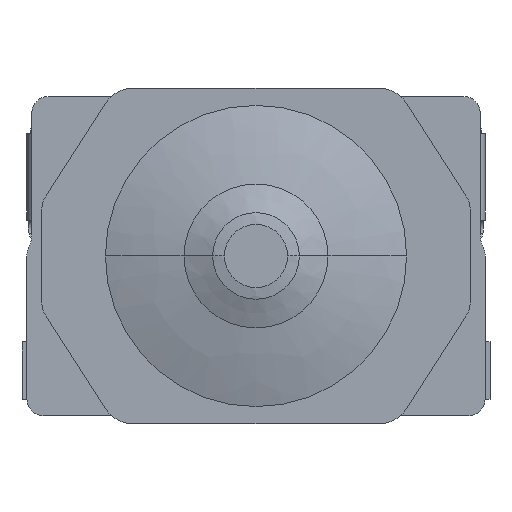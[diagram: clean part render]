
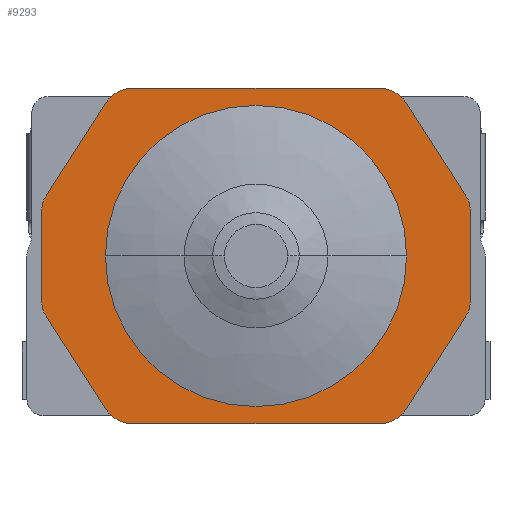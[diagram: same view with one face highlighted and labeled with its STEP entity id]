
A CAD part, top view. The second image highlights one B-rep face of the part: STEP entity #9293.
In plain terms, the highlighted planar face has unit normal (0, 0, 1).
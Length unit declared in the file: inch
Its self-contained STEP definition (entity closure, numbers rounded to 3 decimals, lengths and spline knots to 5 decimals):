
#3244=CARTESIAN_POINT('',(243.18695,-110.72201,199.91762));
#3245=DIRECTION('',(0.,0.,1.));
#3246=DIRECTION('',(0.,1.,0.));
#3247=AXIS2_PLACEMENT_3D('',#3244,#3245,#3246);
#3249=DIRECTION('',(-1.,0.,0.));
#3250=VECTOR('',#3249,1.50407);
#3251=CARTESIAN_POINT('',(244.69102,-110.52201,199.91762));
#3252=LINE('',#3251,#3250);
#3253=CARTESIAN_POINT('',(244.69102,-110.72201,199.91762));
#3254=DIRECTION('',(0.,0.,1.));
#3255=DIRECTION('',(0.841,0.541,0.));
#3256=AXIS2_PLACEMENT_3D('',#3253,#3254,#3255);
#3258=DIRECTION('',(-0.541,0.841,0.));
#3259=VECTOR('',#3258,0.66197);
#3260=CARTESIAN_POINT('',(245.21722,-111.17069,199.91762));
#3261=LINE('',#3260,#3259);
#3262=CARTESIAN_POINT('',(245.04898,-111.27885,199.91762));
#3263=DIRECTION('',(0.,0.,1.));
#3264=DIRECTION('',(0.959,0.282,0.));
#3265=AXIS2_PLACEMENT_3D('',#3262,#3263,#3264);
#3267=CARTESIAN_POINT('',(245.04898,-111.27885,199.91762));
#3268=DIRECTION('',(0.,0.,1.));
#3269=DIRECTION('',(1.,0.,0.));
#3270=AXIS2_PLACEMENT_3D('',#3267,#3268,#3269);
#3272=DIRECTION('',(0.,1.,0.));
#3273=VECTOR('',#3272,0.53633);
#3274=CARTESIAN_POINT('',(245.24898,-111.81518,199.91762));
#3275=LINE('',#3274,#3273);
#3276=CARTESIAN_POINT('',(245.04898,-111.81518,199.91762));
#3277=DIRECTION('',(0.,0.,1.));
#3278=DIRECTION('',(0.959,-0.282,0.));
#3279=AXIS2_PLACEMENT_3D('',#3276,#3277,#3278);
#3281=CARTESIAN_POINT('',(245.04898,-111.81518,199.91762));
#3282=DIRECTION('',(0.,0.,1.));
#3283=DIRECTION('',(0.841,-0.541,0.));
#3284=AXIS2_PLACEMENT_3D('',#3281,#3282,#3283);
#3286=DIRECTION('',(0.541,0.841,0.));
#3287=VECTOR('',#3286,0.66197);
#3288=CARTESIAN_POINT('',(244.85926,-112.48016,199.91762));
#3289=LINE('',#3288,#3287);
#3290=CARTESIAN_POINT('',(244.69102,-112.37201,199.91762));
#3291=DIRECTION('',(0.,0.,1.));
#3292=DIRECTION('',(0.,-1.,0.));
#3293=AXIS2_PLACEMENT_3D('',#3290,#3291,#3292);
#3295=DIRECTION('',(1.,0.,0.));
#3296=VECTOR('',#3295,1.50407);
#3297=CARTESIAN_POINT('',(243.18695,-112.57201,199.91762));
#3298=LINE('',#3297,#3296);
#3299=CARTESIAN_POINT('',(243.18695,-112.37201,199.91762));
#3300=DIRECTION('',(0.,0.,1.));
#3301=DIRECTION('',(-0.841,-0.541,0.));
#3302=AXIS2_PLACEMENT_3D('',#3299,#3300,#3301);
#3304=DIRECTION('',(0.541,-0.841,0.));
#3305=VECTOR('',#3304,0.66197);
#3306=CARTESIAN_POINT('',(242.66075,-111.92333,199.91762));
#3307=LINE('',#3306,#3305);
#3308=CARTESIAN_POINT('',(242.82898,-111.81518,199.91762));
#3309=DIRECTION('',(0.,0.,1.));
#3310=DIRECTION('',(-0.959,-0.282,0.));
#3311=AXIS2_PLACEMENT_3D('',#3308,#3309,#3310);
#3313=CARTESIAN_POINT('',(242.82898,-111.81518,199.91762));
#3314=DIRECTION('',(0.,0.,1.));
#3315=DIRECTION('',(-1.,0.,0.));
#3316=AXIS2_PLACEMENT_3D('',#3313,#3314,#3315);
#3318=DIRECTION('',(0.,-1.,0.));
#3319=VECTOR('',#3318,0.53633);
#3320=CARTESIAN_POINT('',(242.62898,-111.27885,199.91762));
#3321=LINE('',#3320,#3319);
#3322=CARTESIAN_POINT('',(242.82898,-111.27885,199.91762));
#3323=DIRECTION('',(0.,0.,1.));
#3324=DIRECTION('',(-0.959,0.282,0.));
#3325=AXIS2_PLACEMENT_3D('',#3322,#3323,#3324);
#3327=CARTESIAN_POINT('',(242.82898,-111.27885,199.91762));
#3328=DIRECTION('',(0.,0.,1.));
#3329=DIRECTION('',(-0.841,0.541,0.));
#3330=AXIS2_PLACEMENT_3D('',#3327,#3328,#3329);
#3332=DIRECTION('',(-0.541,-0.841,0.));
#3333=VECTOR('',#3332,0.66197);
#3334=CARTESIAN_POINT('',(243.01871,-110.61386,199.91762));
#3335=LINE('',#3334,#3333);
#3336=CARTESIAN_POINT('',(243.93898,-111.54701,199.91762));
#3337=DIRECTION('',(0.,0.,-1.));
#3338=DIRECTION('',(1.,0.,0.));
#3339=AXIS2_PLACEMENT_3D('',#3336,#3337,#3338);
#3341=CARTESIAN_POINT('',(243.93898,-111.54701,199.91762));
#3342=DIRECTION('',(0.,0.,-1.));
#3343=DIRECTION('',(-1.,0.,0.));
#3344=AXIS2_PLACEMENT_3D('',#3341,#3342,#3343);
#5239=CARTESIAN_POINT('',(243.18695,-110.52201,199.91762));
#5240=CARTESIAN_POINT('',(243.01871,-110.61386,199.91762));
#5241=VERTEX_POINT('',#5239);
#5242=VERTEX_POINT('',#5240);
#5487=CARTESIAN_POINT('',(242.66075,-111.17069,199.91762));
#5488=VERTEX_POINT('',#5487);
#5489=CARTESIAN_POINT('',(244.69102,-110.52201,199.91762));
#5490=VERTEX_POINT('',#5489);
#5599=CARTESIAN_POINT('',(244.85926,-110.61386,199.91762));
#5600=VERTEX_POINT('',#5599);
#5601=CARTESIAN_POINT('',(242.63709,-111.22249,199.91762));
#5602=CARTESIAN_POINT('',(242.62898,-111.27885,199.91762));
#5603=VERTEX_POINT('',#5601);
#5604=VERTEX_POINT('',#5602);
#5699=CARTESIAN_POINT('',(245.21722,-111.17069,199.91762));
#5700=VERTEX_POINT('',#5699);
#5701=CARTESIAN_POINT('',(242.62898,-111.81518,199.91762));
#5702=VERTEX_POINT('',#5701);
#5778=CARTESIAN_POINT('',(244.69102,-112.57201,199.91762));
#5779=CARTESIAN_POINT('',(244.85926,-112.48016,199.91762));
#5780=VERTEX_POINT('',#5778);
#5781=VERTEX_POINT('',#5779);
#5782=CARTESIAN_POINT('',(242.63709,-111.87154,199.91762));
#5783=CARTESIAN_POINT('',(242.66075,-111.92333,199.91762));
#5784=VERTEX_POINT('',#5782);
#5785=VERTEX_POINT('',#5783);
#5786=CARTESIAN_POINT('',(245.24088,-111.22249,199.91762));
#5787=VERTEX_POINT('',#5786);
#5788=CARTESIAN_POINT('',(245.24898,-111.27885,199.91762));
#5789=VERTEX_POINT('',#5788);
#5829=CARTESIAN_POINT('',(243.01871,-112.48016,199.91762));
#5830=VERTEX_POINT('',#5829);
#5831=CARTESIAN_POINT('',(245.24898,-111.81518,199.91762));
#5832=VERTEX_POINT('',#5831);
#5850=CARTESIAN_POINT('',(243.18695,-112.57201,199.91762));
#5851=VERTEX_POINT('',#5850);
#5852=CARTESIAN_POINT('',(245.21722,-111.92333,199.91762));
#5853=VERTEX_POINT('',#5852);
#5854=CARTESIAN_POINT('',(245.24088,-111.87154,199.91762));
#5855=VERTEX_POINT('',#5854);
#5909=CARTESIAN_POINT('',(243.01863,-111.54701,199.91762));
#5910=VERTEX_POINT('',#5909);
#5911=CARTESIAN_POINT('',(244.85934,-111.54701,199.91762));
#5912=VERTEX_POINT('',#5911);
#9241=CARTESIAN_POINT('',(245.05416,-111.54701,199.91762));
#9242=DIRECTION('',(0.,0.,1.));
#9243=DIRECTION('',(1.,0.,0.));
#9244=AXIS2_PLACEMENT_3D('',#9241,#9242,#9243);
#9245=PLANE('',#9244);
#9246=ORIENTED_EDGE('',*,*,#9231,.F.);
#9248=ORIENTED_EDGE('',*,*,#9247,.F.);
#9250=ORIENTED_EDGE('',*,*,#9249,.F.);
#9252=ORIENTED_EDGE('',*,*,#9251,.F.);
#9254=ORIENTED_EDGE('',*,*,#9253,.F.);
#9256=ORIENTED_EDGE('',*,*,#9255,.F.);
#9258=ORIENTED_EDGE('',*,*,#9257,.F.);
#9260=ORIENTED_EDGE('',*,*,#9259,.F.);
#9262=ORIENTED_EDGE('',*,*,#9261,.F.);
#9264=ORIENTED_EDGE('',*,*,#9263,.F.);
#9266=ORIENTED_EDGE('',*,*,#9265,.F.);
#9268=ORIENTED_EDGE('',*,*,#9267,.F.);
#9270=ORIENTED_EDGE('',*,*,#9269,.F.);
#9272=ORIENTED_EDGE('',*,*,#9271,.F.);
#9274=ORIENTED_EDGE('',*,*,#9273,.F.);
#9276=ORIENTED_EDGE('',*,*,#9275,.F.);
#9278=ORIENTED_EDGE('',*,*,#9277,.F.);
#9280=ORIENTED_EDGE('',*,*,#9279,.F.);
#9282=ORIENTED_EDGE('',*,*,#9281,.F.);
#9284=ORIENTED_EDGE('',*,*,#9283,.F.);
#9285=EDGE_LOOP('',(#9246,#9248,#9250,#9252,#9254,#9256,#9258,#9260,#9262,#9264,
#9266,#9268,#9270,#9272,#9274,#9276,#9278,#9280,#9282,#9284));
#9286=FACE_OUTER_BOUND('',#9285,.F.);
#9288=ORIENTED_EDGE('',*,*,#9287,.F.);
#9290=ORIENTED_EDGE('',*,*,#9289,.F.);
#9291=EDGE_LOOP('',(#9288,#9290));
#9292=FACE_BOUND('',#9291,.F.);
#3248=CIRCLE('',#3247,0.2);
#3257=CIRCLE('',#3256,0.2);
#3266=CIRCLE('',#3265,0.2);
#3271=CIRCLE('',#3270,0.2);
#3280=CIRCLE('',#3279,0.2);
#3285=CIRCLE('',#3284,0.2);
#3294=CIRCLE('',#3293,0.2);
#3303=CIRCLE('',#3302,0.2);
#3312=CIRCLE('',#3311,0.2);
#3317=CIRCLE('',#3316,0.2);
#3326=CIRCLE('',#3325,0.2);
#3331=CIRCLE('',#3330,0.2);
#3340=CIRCLE('',#3339,0.92035);
#3345=CIRCLE('',#3344,0.92035);
#9231=EDGE_CURVE('',#5241,#5242,#3248,.T.);
#9247=EDGE_CURVE('',#5490,#5241,#3252,.T.);
#9249=EDGE_CURVE('',#5600,#5490,#3257,.T.);
#9251=EDGE_CURVE('',#5700,#5600,#3261,.T.);
#9253=EDGE_CURVE('',#5787,#5700,#3266,.T.);
#9255=EDGE_CURVE('',#5789,#5787,#3271,.T.);
#9257=EDGE_CURVE('',#5832,#5789,#3275,.T.);
#9259=EDGE_CURVE('',#5855,#5832,#3280,.T.);
#9261=EDGE_CURVE('',#5853,#5855,#3285,.T.);
#9263=EDGE_CURVE('',#5781,#5853,#3289,.T.);
#9265=EDGE_CURVE('',#5780,#5781,#3294,.T.);
#9267=EDGE_CURVE('',#5851,#5780,#3298,.T.);
#9269=EDGE_CURVE('',#5830,#5851,#3303,.T.);
#9271=EDGE_CURVE('',#5785,#5830,#3307,.T.);
#9273=EDGE_CURVE('',#5784,#5785,#3312,.T.);
#9275=EDGE_CURVE('',#5702,#5784,#3317,.T.);
#9277=EDGE_CURVE('',#5604,#5702,#3321,.T.);
#9279=EDGE_CURVE('',#5603,#5604,#3326,.T.);
#9281=EDGE_CURVE('',#5488,#5603,#3331,.T.);
#9283=EDGE_CURVE('',#5242,#5488,#3335,.T.);
#9287=EDGE_CURVE('',#5912,#5910,#3340,.T.);
#9289=EDGE_CURVE('',#5910,#5912,#3345,.T.);
#9293=ADVANCED_FACE('',(#9286,#9292),#9245,.T.);
